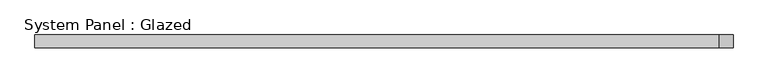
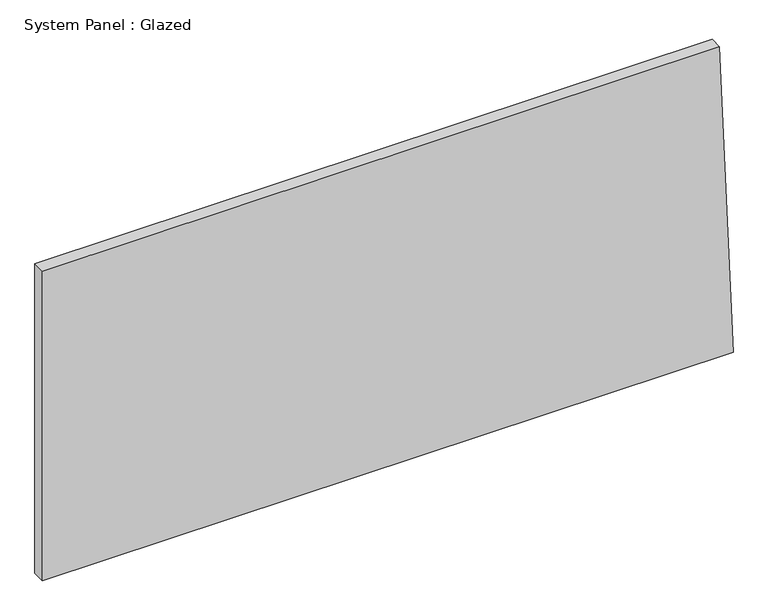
"""IFC4 building model written with IfcOpenShell, lengths in millimetres: plate geometry, System Panel : Glazed."""

from ifc_helpers import new_model, si_unit, frame, origin, place, context, project, spatial, polyline, outline, extrude, source, transform, mapped, element, save


def system_panel_glazed_4c9a0e96(model_context):
    return source(origin(), model_context, "Body", "SweptSolid", [
        extrude(outline(polyline([(0.0, -686.4214672), (0.0, 686.4214672), (650.875, 659.3103537), (650.875, -686.4214672), (0.0, -686.4214672)])), frame((0.0, 19.05, 0.0), z_axis=(0.0, 1.0, 0.0), x_axis=(0.0, 0.0, 1.0)), (0.0, 0.0, 1.0), 25.4),
    ])


if __name__ == "__main__":
    model = new_model("IFC4")
    model_context = context("Model", 3, world=origin())
    ifc_project = project(units=[si_unit("LENGTHUNIT", "METRE", prefix="MILLI")], contexts=[model_context])
    site = spatial("IfcSite", under=ifc_project)
    building = spatial("IfcBuilding", under=site)
    placement = place(None, origin())
    system_panel_glazed_shape = system_panel_glazed_4c9a0e96(model_context)
    element("IfcPlate", 1, ObjectType="System Panel : Glazed", at=placement, inside=building, context=model_context, shape_type="MappedRepresentation", body=[
        mapped(system_panel_glazed_shape, transform((0.0, 0.0, 0.0), x_axis=(1.0, 0.0, 0.0), y_axis=(0.0, 1.0, 0.0), z_axis=(0.0, 0.0, 1.0))),
    ])
    save(model, "model.ifc")
